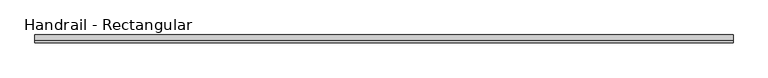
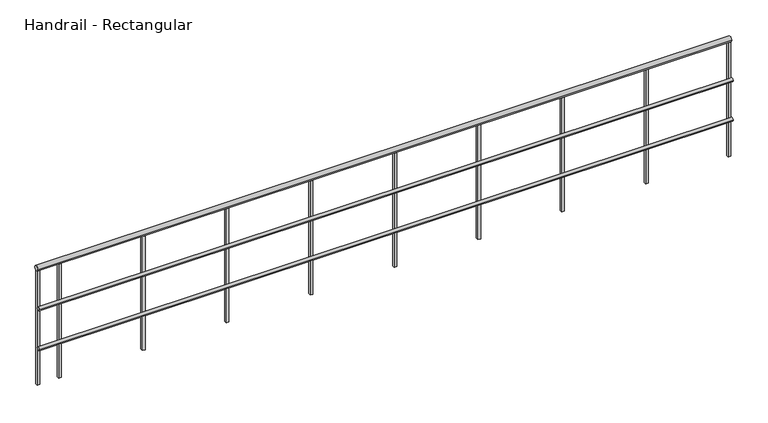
"""IFC4 building model written with IfcOpenShell, lengths in millimetres: railing geometry, Handrail - Rectangular."""

from ifc_helpers import new_model, si_unit, point, frame, frame_2d, origin, place, context, project, spatial, polyline, circle_curve, trimmed, segment, composite_curve, outline, extrude, source, transform, mapped, element, save


def handrail_rectangular_bd103520(model_context):
    return source(origin(), model_context, "Body", "SweptSolid", [
        extrude(outline(composite_curve([segment(trimmed(circle_curve(frame_2d((-35578.5683133, 3644.9)), 12.7), [point((-35591.2683133, 3644.9))], [point((-35565.8683133, 3644.9))], False, "CARTESIAN"), True, "CONTINUOUS"), segment(trimmed(circle_curve(frame_2d((-35578.5683133, 3644.9)), 12.7), [point((-35565.8683133, 3644.9))], [point((-35591.2683133, 3644.9))], False, "CARTESIAN"), True, "CONTINUOUS")], self_intersect=False)), frame((-23747.3839563, 0.0, 0.0), z_axis=(1.0, 0.0, 0.0), x_axis=(0.0, 1.0, 0.0)), (0.0, 0.0, 1.0), 5041.9),
        extrude(outline(composite_curve([segment(trimmed(circle_curve(frame_2d((-35578.5683133, 3340.1)), 12.7), [point((-35591.2683133, 3340.1))], [point((-35565.8683133, 3340.1))], False, "CARTESIAN"), True, "CONTINUOUS"), segment(trimmed(circle_curve(frame_2d((-35578.5683133, 3340.1)), 12.7), [point((-35565.8683133, 3340.1))], [point((-35591.2683133, 3340.1))], False, "CARTESIAN"), True, "CONTINUOUS")], self_intersect=False)), frame((-23747.3839563, 0.0, 0.0), z_axis=(1.0, 0.0, 0.0), x_axis=(0.0, 1.0, 0.0)), (0.0, 0.0, 1.0), 5041.9),
        extrude(outline(composite_curve([segment(trimmed(circle_curve(frame_2d((-35553.1683133, 3943.35)), 19.05), [point((-35572.2183133, 3943.35))], [point((-35534.1183133, 3943.35))], False, "CARTESIAN"), True, "CONTINUOUS"), segment(trimmed(circle_curve(frame_2d((-35553.1683133, 3943.35)), 19.05), [point((-35534.1183133, 3943.35))], [point((-35572.2183133, 3943.35))], False, "CARTESIAN"), True, "CONTINUOUS")], self_intersect=False)), frame((-23747.3839563, 0.0, 0.0), z_axis=(1.0, 0.0, 0.0), x_axis=(0.0, 1.0, 0.0)), (0.0, 0.0, 1.0), 5041.9),
        extrude(outline(polyline([(-23572.7589563, -35543.6433133), (-23572.7589563, -35562.6933133), (-23591.8089563, -35562.6933133), (-23591.8089563, -35543.6433133), (-23572.7589563, -35543.6433133)])), frame((0.0, 0.0, 3048.0), z_axis=(0.0, 0.0, 1.0), x_axis=(1.0, 0.0, 0.0)), (0.0, 0.0, 1.0), 876.3),
        extrude(outline(polyline([(-22963.1589563, -35543.6433133), (-22963.1589563, -35562.6933133), (-22982.2089563, -35562.6933133), (-22982.2089563, -35543.6433133), (-22963.1589563, -35543.6433133)])), frame((0.0, 0.0, 3048.0), z_axis=(0.0, 0.0, 1.0), x_axis=(1.0, 0.0, 0.0)), (0.0, 0.0, 1.0), 876.3),
        extrude(outline(polyline([(-22353.5589563, -35543.6433133), (-22353.5589563, -35562.6933133), (-22372.6089563, -35562.6933133), (-22372.6089563, -35543.6433133), (-22353.5589563, -35543.6433133)])), frame((0.0, 0.0, 3048.0), z_axis=(0.0, 0.0, 1.0), x_axis=(1.0, 0.0, 0.0)), (0.0, 0.0, 1.0), 876.3),
        extrude(outline(polyline([(-21743.9589563, -35543.6433133), (-21743.9589563, -35562.6933133), (-21763.0089563, -35562.6933133), (-21763.0089563, -35543.6433133), (-21743.9589563, -35543.6433133)])), frame((0.0, 0.0, 3048.0), z_axis=(0.0, 0.0, 1.0), x_axis=(1.0, 0.0, 0.0)), (0.0, 0.0, 1.0), 876.3),
        extrude(outline(polyline([(-21134.3589563, -35543.6433133), (-21134.3589563, -35562.6933133), (-21153.4089563, -35562.6933133), (-21153.4089563, -35543.6433133), (-21134.3589563, -35543.6433133)])), frame((0.0, 0.0, 3048.0), z_axis=(0.0, 0.0, 1.0), x_axis=(1.0, 0.0, 0.0)), (0.0, 0.0, 1.0), 876.3),
        extrude(outline(polyline([(-20524.7589563, -35543.6433133), (-20524.7589563, -35562.6933133), (-20543.8089563, -35562.6933133), (-20543.8089563, -35543.6433133), (-20524.7589563, -35543.6433133)])), frame((0.0, 0.0, 3048.0), z_axis=(0.0, 0.0, 1.0), x_axis=(1.0, 0.0, 0.0)), (0.0, 0.0, 1.0), 876.3),
        extrude(outline(polyline([(-19915.1589563, -35543.6433133), (-19915.1589563, -35562.6933133), (-19934.2089563, -35562.6933133), (-19934.2089563, -35543.6433133), (-19915.1589563, -35543.6433133)])), frame((0.0, 0.0, 3048.0), z_axis=(0.0, 0.0, 1.0), x_axis=(1.0, 0.0, 0.0)), (0.0, 0.0, 1.0), 876.3),
        extrude(outline(polyline([(-19305.5589563, -35543.6433133), (-19305.5589563, -35562.6933133), (-19324.6089563, -35562.6933133), (-19324.6089563, -35543.6433133), (-19305.5589563, -35543.6433133)])), frame((0.0, 0.0, 3048.0), z_axis=(0.0, 0.0, 1.0), x_axis=(1.0, 0.0, 0.0)), (0.0, 0.0, 1.0), 876.3),
        extrude(outline(polyline([(-23728.3339563, -35543.6433133), (-23728.3339563, -35562.6933133), (-23747.3839563, -35562.6933133), (-23747.3839563, -35543.6433133), (-23728.3339563, -35543.6433133)])), frame((0.0, 0.0, 3048.0), z_axis=(0.0, 0.0, 1.0), x_axis=(1.0, 0.0, 0.0)), (0.0, 0.0, 1.0), 876.3),
        extrude(outline(polyline([(-18705.4839563, -35543.6433133), (-18705.4839563, -35562.6933133), (-18724.5339563, -35562.6933133), (-18724.5339563, -35543.6433133), (-18705.4839563, -35543.6433133)])), frame((0.0, 0.0, 3048.0), z_axis=(0.0, 0.0, 1.0), x_axis=(1.0, 0.0, 0.0)), (0.0, 0.0, 1.0), 876.3),
    ])


if __name__ == "__main__":
    model = new_model("IFC4")
    model_context = context("Model", 3, world=origin())
    ifc_project = project(units=[si_unit("LENGTHUNIT", "METRE", prefix="MILLI")], contexts=[model_context])
    site = spatial("IfcSite", under=ifc_project)
    building = spatial("IfcBuilding", under=site)
    placement = place(None, origin())
    handrail_rectangular_shape = handrail_rectangular_bd103520(model_context)
    element("IfcRailing", 1, ObjectType="Handrail - Rectangular", at=placement, inside=building, context=model_context, shape_type="MappedRepresentation", body=[
        mapped(handrail_rectangular_shape, transform((0.0, 0.0, 0.0), x_axis=(1.0, 0.0, 0.0), y_axis=(0.0, 1.0, 0.0), z_axis=(0.0, 0.0, 1.0))),
    ])
    save(model, "model.ifc")
